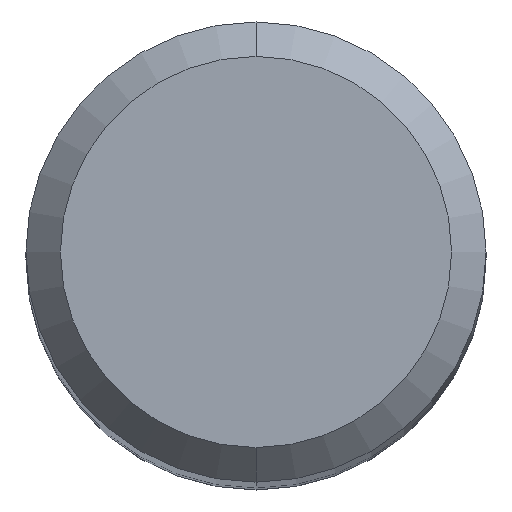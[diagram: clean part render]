
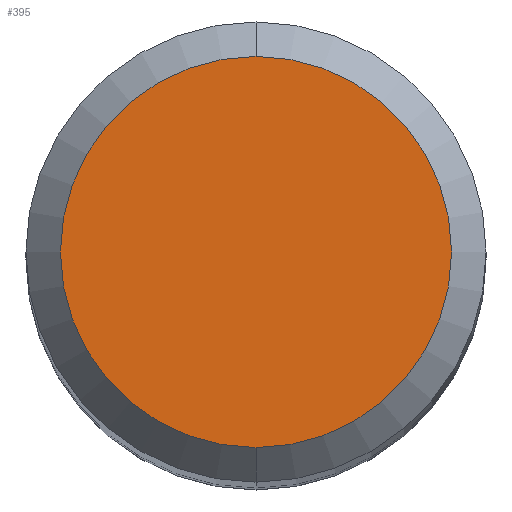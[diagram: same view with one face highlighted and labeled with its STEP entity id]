
A CAD part, top view. The second image highlights one B-rep face of the part: STEP entity #395.
In plain terms, the highlighted planar face has unit normal (0, 0, 1).
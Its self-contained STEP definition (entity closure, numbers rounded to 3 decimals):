
#193=VERTEX_POINT('',#487);
#339=EDGE_CURVE('',#435,#193,#647,.T.);
#353=EDGE_CURVE('',#193,#435,#663,.T.);
#395=ADVANCED_FACE('',(#707),#708,.T.);
#435=VERTEX_POINT('',#753);
#487=CARTESIAN_POINT('',(0.0,1.7,0.0));
#647=CIRCLE('',#1173,1.7);
#663=CIRCLE('',#1193,1.7);
#707=FACE_OUTER_BOUND('',#1284,.T.);
#708=PLANE('',#1285);
#753=CARTESIAN_POINT('',(0.,-1.7,0.0));
#1173=AXIS2_PLACEMENT_3D('',#1593,#1594,#1595);
#1193=AXIS2_PLACEMENT_3D('',#1627,#1628,#1629);
#1284=EDGE_LOOP('',(#1652,#1653));
#1285=AXIS2_PLACEMENT_3D('',#1654,#1655,#1656);
#1593=CARTESIAN_POINT('',(0.0,0.0,0.0));
#1594=DIRECTION('',(0.0,0.0,-1.0));
#1595=DIRECTION('',(0.0,1.0,0.0));
#1627=CARTESIAN_POINT('',(0.0,0.0,0.0));
#1628=DIRECTION('',(0.0,0.0,-1.0));
#1629=DIRECTION('',(0.0,1.0,0.0));
#1652=ORIENTED_EDGE('',*,*,#353,.F.);
#1653=ORIENTED_EDGE('',*,*,#339,.F.);
#1654=CARTESIAN_POINT('',(0.0,0.85,0.0));
#1655=DIRECTION('',(-0.0,0.0,1.0));
#1656=DIRECTION('',(0.0,-1.0,0.0));
